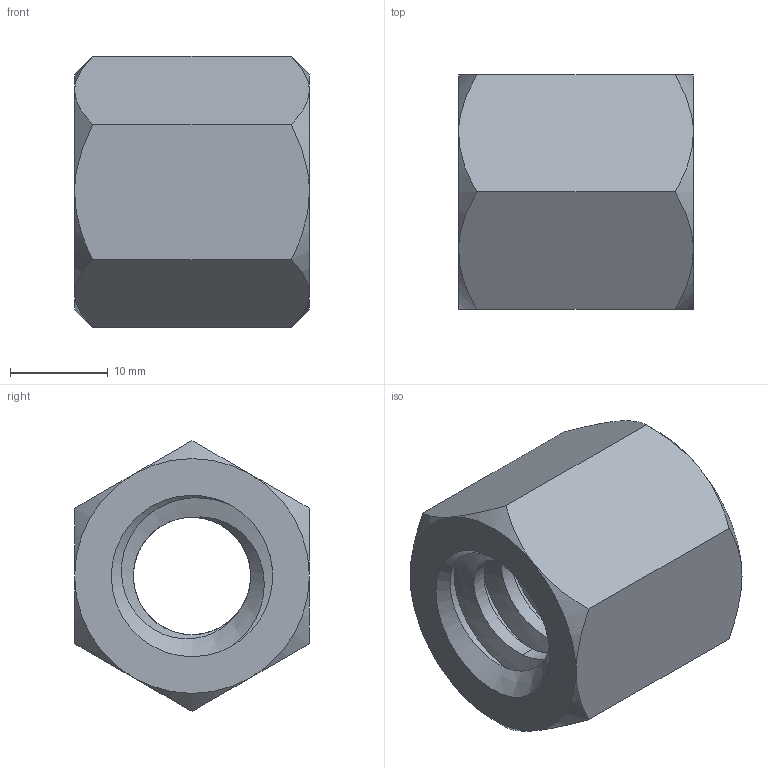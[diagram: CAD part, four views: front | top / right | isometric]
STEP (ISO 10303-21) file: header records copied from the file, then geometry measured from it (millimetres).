
FILE_DESCRIPTION((''),'2;1');
FILE_NAME('716-016-1500_PRT','2024-03-23T',('Brieden'),('ib-brieden'),'PRO/ENGINEER BY PARAMETRIC TECHNOLOGY CORPORATION, 2010160','PRO/ENGINEER BY PARAMETRIC TECHNOLOGY CORPORATION, 2010160','');
FILE_SCHEMA(('AUTOMOTIVE_DESIGN { 1 0 10303 214 1 1 1 1 }'));
Length unit declared in the file: millimetre
Products named in the file (1): 716-016-1500_PRT
Bounding box: 24 x 24 x 27.71 mm (x, y, z)
Volume: 7956.2 mm3; surface area: 4475.1 mm2
Topology: 1 solids, 1 shells, 40 faces, 96 edges, 58 vertices
Faces by surface type: cone 16, cylinder 10, plane 8, bspline 6
Entity records: 3002 total; most frequent: CARTESIAN_POINT 2133, ORIENTED_EDGE 192, DIRECTION 124, EDGE_CURVE 96, VERTEX_POINT 58, B_SPLINE_CURVE_WITH_KNOTS 58, AXIS2_PLACEMENT_3D 52, EDGE_LOOP 42
